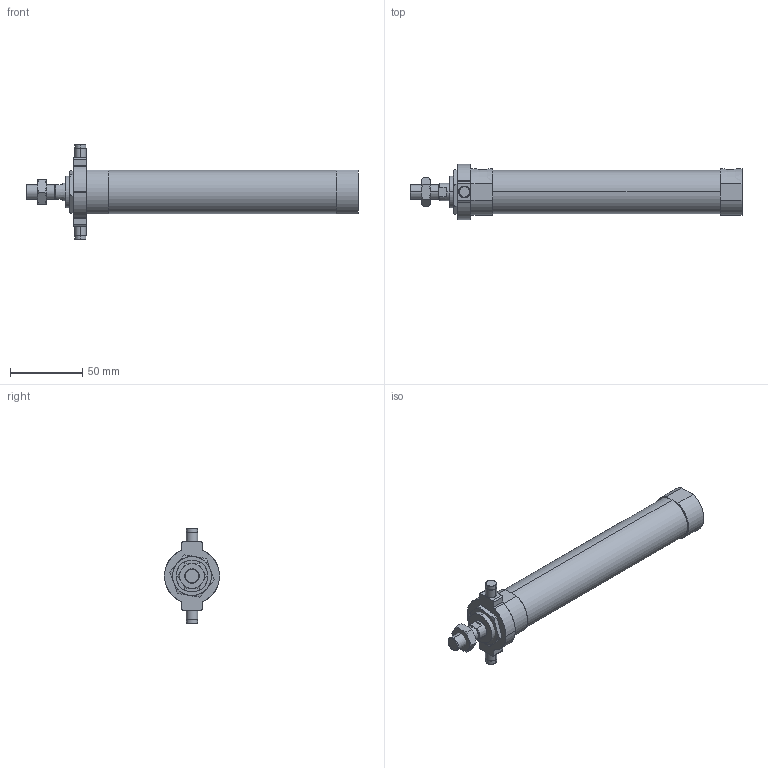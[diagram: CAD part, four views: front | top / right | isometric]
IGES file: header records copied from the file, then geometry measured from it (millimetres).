
Start section: SolidWorks IGES file using analytic representation for surfaces
Global section: file name: C:\Users\Toshiba\Desktop\JGND2-25-125-T.IGS; native system: SolidWorks 2014; preprocessor: SolidWorks 2014; author: Toshiba; date: 160804.104149; units: millimetre
Bounding box: 229 x 38 x 66 mm (x, y, z)
Surface area: 28709.6 mm2 (no closed solid volume)
Topology: 0 solids, 0 shells, 128 faces, 2096 edges, 2092 vertices
Faces by surface type: bspline 69, revolution 59
